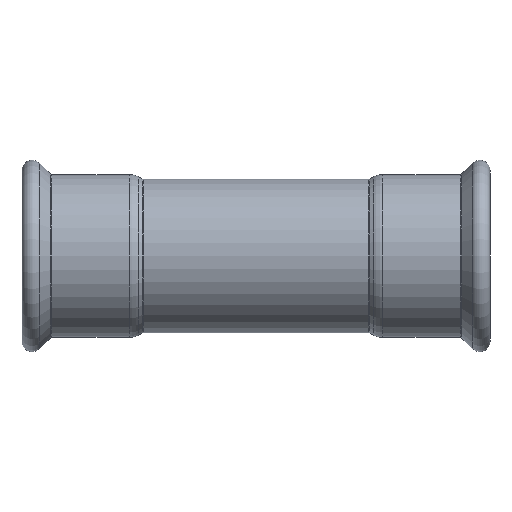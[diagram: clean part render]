
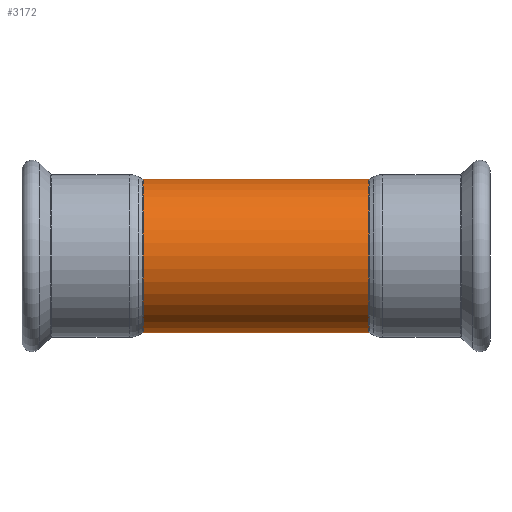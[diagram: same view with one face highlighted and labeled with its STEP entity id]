
A CAD part, front view. The second image highlights one B-rep face of the part: STEP entity #3172.
In plain terms, the highlighted cylindrical face has radius 37.55 mm (diameter 75.1 mm), a partial arc.
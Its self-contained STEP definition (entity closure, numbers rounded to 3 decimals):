
#426 = ORIENTED_EDGE ( 'NONE', *, *, #3408, .F. ) ;
#604 = CYLINDRICAL_SURFACE ( 'NONE', #1654, 37.55 ) ;
#776 = DIRECTION ( 'NONE',  ( 0., 0., 1. ) ) ;
#807 = DIRECTION ( 'NONE',  ( -1., 0., 0. ) ) ;
#956 = CARTESIAN_POINT ( 'NONE',  ( 27.146, 0., 37.55 ) ) ;
#967 = CARTESIAN_POINT ( 'NONE',  ( -55.056, 0., -37.55 ) ) ;
#969 = CARTESIAN_POINT ( 'NONE',  ( 27.146, 0., 0. ) ) ;
#998 = DIRECTION ( 'NONE',  ( -1., 0., 0. ) ) ;
#1097 = ORIENTED_EDGE ( 'NONE', *, *, #3802, .T. ) ;
#1171 = AXIS2_PLACEMENT_3D ( 'NONE', #2375, #2782, #776 ) ;
#1234 = FACE_OUTER_BOUND ( 'NONE', #1893, .T. ) ;
#1247 = EDGE_CURVE ( 'NONE', #1951, #3962, #4077, .T. ) ;
#1302 = ORIENTED_EDGE ( 'NONE', *, *, #1247, .T. ) ;
#1343 = DIRECTION ( 'NONE',  ( 0., 0., 1. ) ) ;
#1417 = VERTEX_POINT ( 'NONE', #3403 ) ;
#1422 = CARTESIAN_POINT ( 'NONE',  ( 55.056, 0., 37.55 ) ) ;
#1654 = AXIS2_PLACEMENT_3D ( 'NONE', #969, #3557, #4287 ) ;
#1732 = AXIS2_PLACEMENT_3D ( 'NONE', #3323, #998, #1343 ) ;
#1759 = VERTEX_POINT ( 'NONE', #967 ) ;
#1893 = EDGE_LOOP ( 'NONE', ( #426, #1097, #1302, #2393 ) ) ;
#1951 = VERTEX_POINT ( 'NONE', #1422 ) ;
#2294 = DIRECTION ( 'NONE',  ( -1., 0., 0. ) ) ;
#2375 = CARTESIAN_POINT ( 'NONE',  ( -55.056, 0., 0. ) ) ;
#2393 = ORIENTED_EDGE ( 'NONE', *, *, #4046, .F. ) ;
#2428 = VECTOR ( 'NONE', #2294, 1000. ) ;
#2782 = DIRECTION ( 'NONE',  ( -1., 0., 0. ) ) ;
#3146 = CARTESIAN_POINT ( 'NONE',  ( 27.146, 0., -37.55 ) ) ;
#3172 = ADVANCED_FACE ( 'NONE', ( #1234 ), #604, .T. ) ;
#3263 = VECTOR ( 'NONE', #807, 1000. ) ;
#3323 = CARTESIAN_POINT ( 'NONE',  ( 55.056, 0., 0. ) ) ;
#3385 = LINE ( 'NONE', #3146, #3263 ) ;
#3403 = CARTESIAN_POINT ( 'NONE',  ( 55.056, 0., -37.55 ) ) ;
#3408 = EDGE_CURVE ( 'NONE', #1417, #1759, #3385, .T. ) ;
#3557 = DIRECTION ( 'NONE',  ( -1., 0., 0. ) ) ;
#3635 = CIRCLE ( 'NONE', #1171, 37.55 ) ;
#3802 = EDGE_CURVE ( 'NONE', #1417, #1951, #4134, .T. ) ;
#3947 = CARTESIAN_POINT ( 'NONE',  ( -55.056, 0., 37.55 ) ) ;
#3962 = VERTEX_POINT ( 'NONE', #3947 ) ;
#4046 = EDGE_CURVE ( 'NONE', #1759, #3962, #3635, .T. ) ;
#4077 = LINE ( 'NONE', #956, #2428 ) ;
#4134 = CIRCLE ( 'NONE', #1732, 37.55 ) ;
#4287 = DIRECTION ( 'NONE',  ( 0., 0., 1. ) ) ;
